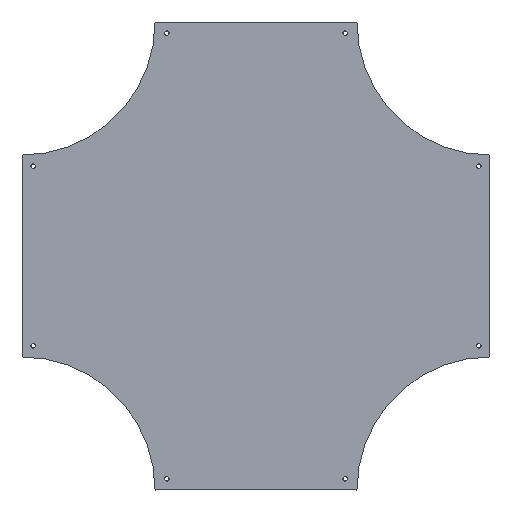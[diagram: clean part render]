
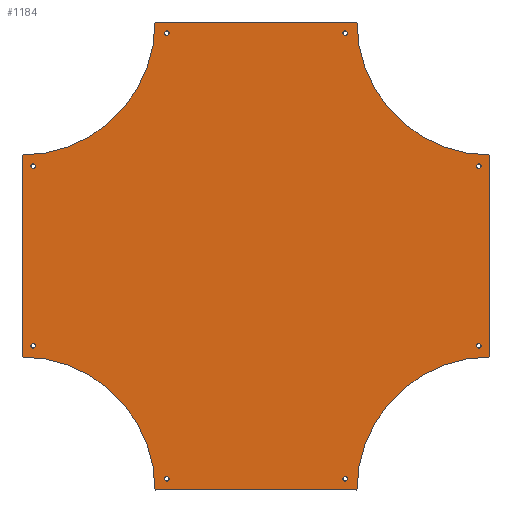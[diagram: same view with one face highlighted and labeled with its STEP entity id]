
A CAD part, top view. The second image highlights one B-rep face of the part: STEP entity #1184.
In plain terms, the highlighted planar face has unit normal (0, 0, 1).
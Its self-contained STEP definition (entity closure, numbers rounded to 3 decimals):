
#86=FACE_BOUND('',#177,.T.);
#87=FACE_BOUND('',#178,.T.);
#88=FACE_BOUND('',#179,.T.);
#89=FACE_BOUND('',#180,.T.);
#90=FACE_BOUND('',#181,.T.);
#91=FACE_BOUND('',#182,.T.);
#92=FACE_BOUND('',#183,.T.);
#93=FACE_BOUND('',#184,.T.);
#102=FACE_OUTER_BOUND('',#176,.T.);
#176=EDGE_LOOP('',(#810,#811,#812,#813,#814,#815,#816,#817));
#177=EDGE_LOOP('',(#818,#819));
#178=EDGE_LOOP('',(#820,#821));
#179=EDGE_LOOP('',(#822,#823));
#180=EDGE_LOOP('',(#824,#825));
#181=EDGE_LOOP('',(#826,#827));
#182=EDGE_LOOP('',(#828,#829));
#183=EDGE_LOOP('',(#830,#831));
#184=EDGE_LOOP('',(#832,#833));
#266=CIRCLE('',#1270,298.5);
#267=CIRCLE('',#1271,298.5);
#268=CIRCLE('',#1272,298.5);
#269=CIRCLE('',#1273,298.5);
#270=CIRCLE('',#1274,5.);
#271=CIRCLE('',#1275,5.);
#272=CIRCLE('',#1276,5.);
#273=CIRCLE('',#1277,5.);
#274=CIRCLE('',#1278,5.);
#275=CIRCLE('',#1279,5.);
#276=CIRCLE('',#1280,5.);
#277=CIRCLE('',#1281,5.);
#278=CIRCLE('',#1282,5.);
#279=CIRCLE('',#1283,5.);
#280=CIRCLE('',#1284,5.);
#281=CIRCLE('',#1285,5.);
#282=CIRCLE('',#1286,5.);
#283=CIRCLE('',#1287,5.);
#284=CIRCLE('',#1288,5.);
#285=CIRCLE('',#1289,5.);
#338=LINE('',#1839,#434);
#339=LINE('',#1843,#435);
#340=LINE('',#1847,#436);
#341=LINE('',#1851,#437);
#434=VECTOR('',#1430,304.8);
#435=VECTOR('',#1433,304.8);
#436=VECTOR('',#1436,304.8);
#437=VECTOR('',#1439,304.8);
#530=VERTEX_POINT('',#1837);
#531=VERTEX_POINT('',#1838);
#532=VERTEX_POINT('',#1840);
#533=VERTEX_POINT('',#1842);
#534=VERTEX_POINT('',#1844);
#535=VERTEX_POINT('',#1846);
#536=VERTEX_POINT('',#1848);
#537=VERTEX_POINT('',#1850);
#538=VERTEX_POINT('',#1853);
#539=VERTEX_POINT('',#1854);
#540=VERTEX_POINT('',#1857);
#541=VERTEX_POINT('',#1858);
#542=VERTEX_POINT('',#1861);
#543=VERTEX_POINT('',#1862);
#544=VERTEX_POINT('',#1865);
#545=VERTEX_POINT('',#1866);
#546=VERTEX_POINT('',#1869);
#547=VERTEX_POINT('',#1870);
#548=VERTEX_POINT('',#1873);
#549=VERTEX_POINT('',#1874);
#550=VERTEX_POINT('',#1877);
#551=VERTEX_POINT('',#1878);
#552=VERTEX_POINT('',#1881);
#553=VERTEX_POINT('',#1882);
#642=EDGE_CURVE('',#530,#531,#338,.T.);
#643=EDGE_CURVE('',#531,#532,#266,.T.);
#644=EDGE_CURVE('',#532,#533,#339,.T.);
#645=EDGE_CURVE('',#533,#534,#267,.T.);
#646=EDGE_CURVE('',#534,#535,#340,.T.);
#647=EDGE_CURVE('',#535,#536,#268,.T.);
#648=EDGE_CURVE('',#536,#537,#341,.T.);
#649=EDGE_CURVE('',#537,#530,#269,.T.);
#650=EDGE_CURVE('',#538,#539,#270,.T.);
#651=EDGE_CURVE('',#539,#538,#271,.T.);
#652=EDGE_CURVE('',#540,#541,#272,.T.);
#653=EDGE_CURVE('',#541,#540,#273,.T.);
#654=EDGE_CURVE('',#542,#543,#274,.T.);
#655=EDGE_CURVE('',#543,#542,#275,.T.);
#656=EDGE_CURVE('',#544,#545,#276,.T.);
#657=EDGE_CURVE('',#545,#544,#277,.T.);
#658=EDGE_CURVE('',#546,#547,#278,.T.);
#659=EDGE_CURVE('',#547,#546,#279,.T.);
#660=EDGE_CURVE('',#548,#549,#280,.T.);
#661=EDGE_CURVE('',#549,#548,#281,.T.);
#662=EDGE_CURVE('',#550,#551,#282,.T.);
#663=EDGE_CURVE('',#551,#550,#283,.T.);
#664=EDGE_CURVE('',#552,#553,#284,.T.);
#665=EDGE_CURVE('',#553,#552,#285,.T.);
#810=ORIENTED_EDGE('',*,*,#642,.T.);
#811=ORIENTED_EDGE('',*,*,#643,.T.);
#812=ORIENTED_EDGE('',*,*,#644,.T.);
#813=ORIENTED_EDGE('',*,*,#645,.T.);
#814=ORIENTED_EDGE('',*,*,#646,.T.);
#815=ORIENTED_EDGE('',*,*,#647,.T.);
#816=ORIENTED_EDGE('',*,*,#648,.T.);
#817=ORIENTED_EDGE('',*,*,#649,.T.);
#818=ORIENTED_EDGE('',*,*,#650,.T.);
#819=ORIENTED_EDGE('',*,*,#651,.T.);
#820=ORIENTED_EDGE('',*,*,#652,.T.);
#821=ORIENTED_EDGE('',*,*,#653,.T.);
#822=ORIENTED_EDGE('',*,*,#654,.T.);
#823=ORIENTED_EDGE('',*,*,#655,.T.);
#824=ORIENTED_EDGE('',*,*,#656,.T.);
#825=ORIENTED_EDGE('',*,*,#657,.T.);
#826=ORIENTED_EDGE('',*,*,#658,.T.);
#827=ORIENTED_EDGE('',*,*,#659,.T.);
#828=ORIENTED_EDGE('',*,*,#660,.T.);
#829=ORIENTED_EDGE('',*,*,#661,.T.);
#830=ORIENTED_EDGE('',*,*,#662,.T.);
#831=ORIENTED_EDGE('',*,*,#663,.T.);
#832=ORIENTED_EDGE('',*,*,#664,.T.);
#833=ORIENTED_EDGE('',*,*,#665,.T.);
#1146=PLANE('',#1269);
#1184=ADVANCED_FACE('',(#102,#86,#87,#88,#89,#90,#91,#92,#93),#1146,.T.);
#1269=AXIS2_PLACEMENT_3D('',#1836,#1428,#1429);
#1270=AXIS2_PLACEMENT_3D('',#1841,#1431,#1432);
#1271=AXIS2_PLACEMENT_3D('',#1845,#1434,#1435);
#1272=AXIS2_PLACEMENT_3D('',#1849,#1437,#1438);
#1273=AXIS2_PLACEMENT_3D('',#1852,#1440,#1441);
#1274=AXIS2_PLACEMENT_3D('',#1855,#1442,#1443);
#1275=AXIS2_PLACEMENT_3D('',#1856,#1444,#1445);
#1276=AXIS2_PLACEMENT_3D('',#1859,#1446,#1447);
#1277=AXIS2_PLACEMENT_3D('',#1860,#1448,#1449);
#1278=AXIS2_PLACEMENT_3D('',#1863,#1450,#1451);
#1279=AXIS2_PLACEMENT_3D('',#1864,#1452,#1453);
#1280=AXIS2_PLACEMENT_3D('',#1867,#1454,#1455);
#1281=AXIS2_PLACEMENT_3D('',#1868,#1456,#1457);
#1282=AXIS2_PLACEMENT_3D('',#1871,#1458,#1459);
#1283=AXIS2_PLACEMENT_3D('',#1872,#1460,#1461);
#1284=AXIS2_PLACEMENT_3D('',#1875,#1462,#1463);
#1285=AXIS2_PLACEMENT_3D('',#1876,#1464,#1465);
#1286=AXIS2_PLACEMENT_3D('',#1879,#1466,#1467);
#1287=AXIS2_PLACEMENT_3D('',#1880,#1468,#1469);
#1288=AXIS2_PLACEMENT_3D('',#1883,#1470,#1471);
#1289=AXIS2_PLACEMENT_3D('',#1884,#1472,#1473);
#1428=DIRECTION('center_axis',(0.,0.,1.));
#1429=DIRECTION('ref_axis',(0.,-1.,0.));
#1430=DIRECTION('',(0.,1.,0.));
#1431=DIRECTION('center_axis',(0.,0.,-1.));
#1432=DIRECTION('ref_axis',(1.,0.,0.));
#1433=DIRECTION('',(-1.,0.,0.));
#1434=DIRECTION('center_axis',(0.,0.,-1.));
#1435=DIRECTION('ref_axis',(1.,0.,0.));
#1436=DIRECTION('',(0.,-1.,0.));
#1437=DIRECTION('center_axis',(0.,0.,-1.));
#1438=DIRECTION('ref_axis',(1.,0.,0.));
#1439=DIRECTION('',(1.,0.,0.));
#1440=DIRECTION('center_axis',(0.,0.,-1.));
#1441=DIRECTION('ref_axis',(1.,0.,0.));
#1442=DIRECTION('center_axis',(0.,0.,-1.));
#1443=DIRECTION('ref_axis',(1.,0.,0.));
#1444=DIRECTION('center_axis',(0.,0.,-1.));
#1445=DIRECTION('ref_axis',(1.,0.,0.));
#1446=DIRECTION('center_axis',(0.,0.,-1.));
#1447=DIRECTION('ref_axis',(1.,0.,0.));
#1448=DIRECTION('center_axis',(0.,0.,-1.));
#1449=DIRECTION('ref_axis',(1.,0.,0.));
#1450=DIRECTION('center_axis',(0.,0.,-1.));
#1451=DIRECTION('ref_axis',(1.,0.,0.));
#1452=DIRECTION('center_axis',(0.,0.,-1.));
#1453=DIRECTION('ref_axis',(1.,0.,0.));
#1454=DIRECTION('center_axis',(0.,0.,-1.));
#1455=DIRECTION('ref_axis',(1.,0.,0.));
#1456=DIRECTION('center_axis',(0.,0.,-1.));
#1457=DIRECTION('ref_axis',(1.,0.,0.));
#1458=DIRECTION('center_axis',(0.,0.,-1.));
#1459=DIRECTION('ref_axis',(1.,0.,0.));
#1460=DIRECTION('center_axis',(0.,0.,-1.));
#1461=DIRECTION('ref_axis',(1.,0.,0.));
#1462=DIRECTION('center_axis',(0.,0.,-1.));
#1463=DIRECTION('ref_axis',(1.,0.,0.));
#1464=DIRECTION('center_axis',(0.,0.,-1.));
#1465=DIRECTION('ref_axis',(1.,0.,0.));
#1466=DIRECTION('center_axis',(0.,0.,-1.));
#1467=DIRECTION('ref_axis',(1.,0.,0.));
#1468=DIRECTION('center_axis',(0.,0.,-1.));
#1469=DIRECTION('ref_axis',(1.,0.,0.));
#1470=DIRECTION('center_axis',(0.,0.,-1.));
#1471=DIRECTION('ref_axis',(1.,0.,0.));
#1472=DIRECTION('center_axis',(0.,0.,-1.));
#1473=DIRECTION('ref_axis',(1.,0.,0.));
#1836=CARTESIAN_POINT('Origin',(-226.5,-525.,1.5));
#1837=CARTESIAN_POINT('',(525.,-226.5,1.5));
#1838=CARTESIAN_POINT('',(525.,226.5,1.5));
#1839=CARTESIAN_POINT('',(525.,-226.5,1.5));
#1840=CARTESIAN_POINT('',(226.5,525.,1.5));
#1841=CARTESIAN_POINT('Origin',(525.,525.,1.5));
#1842=CARTESIAN_POINT('',(-226.5,525.,1.5));
#1843=CARTESIAN_POINT('',(226.5,525.,1.5));
#1844=CARTESIAN_POINT('',(-525.,226.5,1.5));
#1845=CARTESIAN_POINT('Origin',(-525.,525.,1.5));
#1846=CARTESIAN_POINT('',(-525.,-226.5,1.5));
#1847=CARTESIAN_POINT('',(-525.,226.5,1.5));
#1848=CARTESIAN_POINT('',(-226.5,-525.,1.5));
#1849=CARTESIAN_POINT('Origin',(-525.,-525.,1.5));
#1850=CARTESIAN_POINT('',(226.5,-525.,1.5));
#1851=CARTESIAN_POINT('',(-226.5,-525.,1.5));
#1852=CARTESIAN_POINT('Origin',(525.,-525.,1.5));
#1853=CARTESIAN_POINT('',(-495.,201.5,1.5));
#1854=CARTESIAN_POINT('',(-505.,201.5,1.5));
#1855=CARTESIAN_POINT('Origin',(-500.,201.5,1.5));
#1856=CARTESIAN_POINT('Origin',(-500.,201.5,1.5));
#1857=CARTESIAN_POINT('',(-495.,-201.5,1.5));
#1858=CARTESIAN_POINT('',(-505.,-201.5,1.5));
#1859=CARTESIAN_POINT('Origin',(-500.,-201.5,1.5));
#1860=CARTESIAN_POINT('Origin',(-500.,-201.5,1.5));
#1861=CARTESIAN_POINT('',(205.,500.,1.5));
#1862=CARTESIAN_POINT('',(195.,500.,1.5));
#1863=CARTESIAN_POINT('Origin',(200.,500.,1.5));
#1864=CARTESIAN_POINT('Origin',(200.,500.,1.5));
#1865=CARTESIAN_POINT('',(-195.,500.,1.5));
#1866=CARTESIAN_POINT('',(-205.,500.,1.5));
#1867=CARTESIAN_POINT('Origin',(-200.,500.,1.5));
#1868=CARTESIAN_POINT('Origin',(-200.,500.,1.5));
#1869=CARTESIAN_POINT('',(505.,201.5,1.5));
#1870=CARTESIAN_POINT('',(495.,201.5,1.5));
#1871=CARTESIAN_POINT('Origin',(500.,201.5,1.5));
#1872=CARTESIAN_POINT('Origin',(500.,201.5,1.5));
#1873=CARTESIAN_POINT('',(505.,-201.5,1.5));
#1874=CARTESIAN_POINT('',(495.,-201.5,1.5));
#1875=CARTESIAN_POINT('Origin',(500.,-201.5,1.5));
#1876=CARTESIAN_POINT('Origin',(500.,-201.5,1.5));
#1877=CARTESIAN_POINT('',(-195.,-500.,1.5));
#1878=CARTESIAN_POINT('',(-205.,-500.,1.5));
#1879=CARTESIAN_POINT('Origin',(-200.,-500.,1.5));
#1880=CARTESIAN_POINT('Origin',(-200.,-500.,1.5));
#1881=CARTESIAN_POINT('',(205.,-500.,1.5));
#1882=CARTESIAN_POINT('',(195.,-500.,1.5));
#1883=CARTESIAN_POINT('Origin',(200.,-500.,1.5));
#1884=CARTESIAN_POINT('Origin',(200.,-500.,1.5));
